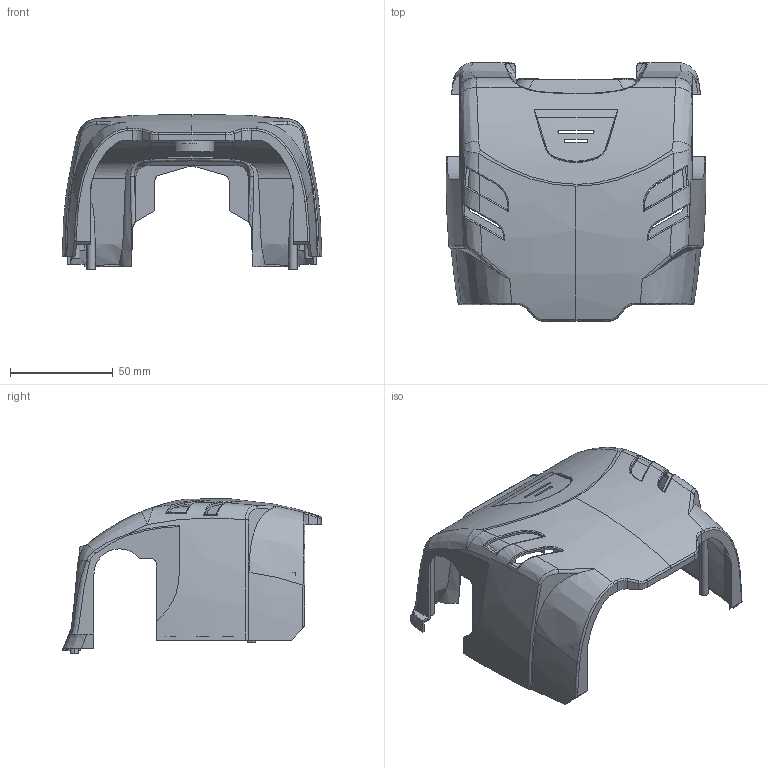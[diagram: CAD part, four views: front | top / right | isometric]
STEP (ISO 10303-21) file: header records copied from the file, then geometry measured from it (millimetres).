
FILE_DESCRIPTION((''),'2;1');
FILE_NAME('DARWIN-OP2_CVR_BODY_F_PRT','2016-08-12T',('kimdolyang'),(''),'PRO/ENGINEER BY PARAMETRIC TECHNOLOGY CORPORATION, 2013410','PRO/ENGINEER BY PARAMETRIC TECHNOLOGY CORPORATION, 2013410','');
FILE_SCHEMA(('AUTOMOTIVE_DESIGN { 1 0 10303 214 1 1 1 1 }'));
Length unit declared in the file: millimetre
Products named in the file (1): DARWIN-OP2_CVR_BODY_F_PRT
Bounding box: 125.99 x 125.5 x 74.94 mm (x, y, z)
Volume: 39322.7 mm3; surface area: 63900.3 mm2
Topology: 1 solids, 1 shells, 444 faces, 1265 edges, 825 vertices
Faces by surface type: plane 190, bspline 129, cylinder 91, torus 15, extrusion 9, cone 6, revolution 4
Entity records: 27151 total; most frequent: CARTESIAN_POINT 13356, ORIENTED_EDGE 2530, DIRECTION 1336, PRESENTATION_STYLE_ASSIGNMENT 1266, STYLED_ITEM 1266, CURVE_STYLE 1265, EDGE_CURVE 1265, VERTEX_POINT 825
